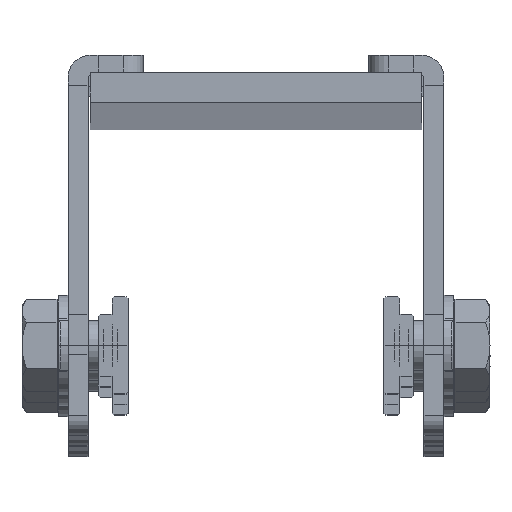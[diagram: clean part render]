
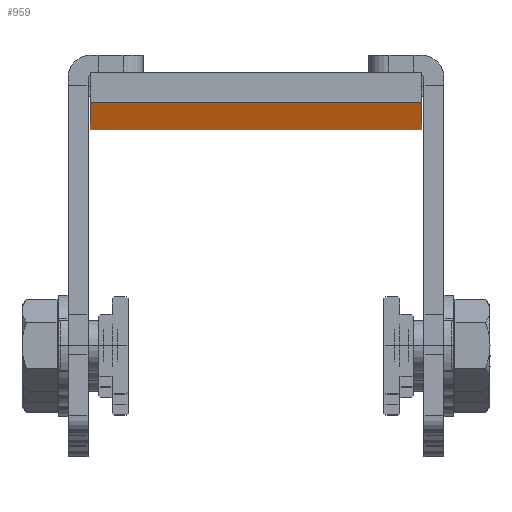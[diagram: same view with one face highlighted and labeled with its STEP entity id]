
A CAD part, top view. The second image highlights one B-rep face of the part: STEP entity #959.
In plain terms, the highlighted planar face has unit normal (0, -1, 0).
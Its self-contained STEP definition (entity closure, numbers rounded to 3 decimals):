
#86=DIRECTION('',(0.,0.,1.));
#87=VECTOR('',#86,1568.);
#88=CARTESIAN_POINT('',(-16.6,0.,-784.));
#89=LINE('',#88,#87);
#93=DIRECTION('',(1.,0.,0.));
#94=VECTOR('',#93,33.2);
#95=CARTESIAN_POINT('',(-16.6,0.,784.));
#96=LINE('',#95,#94);
#100=DIRECTION('',(0.,0.,-1.));
#101=VECTOR('',#100,1568.);
#102=CARTESIAN_POINT('',(16.6,0.,784.));
#103=LINE('',#102,#101);
#107=DIRECTION('',(-1.,0.,0.));
#108=VECTOR('',#107,33.2);
#109=CARTESIAN_POINT('',(16.6,0.,-784.));
#110=LINE('',#109,#108);
#808=CARTESIAN_POINT('',(-16.6,0.,-784.));
#809=CARTESIAN_POINT('',(-16.6,0.,784.));
#810=VERTEX_POINT('',#808);
#811=VERTEX_POINT('',#809);
#812=CARTESIAN_POINT('',(16.6,0.,784.));
#813=VERTEX_POINT('',#812);
#814=CARTESIAN_POINT('',(16.6,0.,-784.));
#815=VERTEX_POINT('',#814);
#944=CARTESIAN_POINT('',(0.,0.,0.));
#945=DIRECTION('',(0.,1.,0.));
#946=DIRECTION('',(1.,0.,0.));
#947=AXIS2_PLACEMENT_3D('',#944,#945,#946);
#948=PLANE('',#947);
#950=ORIENTED_EDGE('',*,*,#949,.T.);
#952=ORIENTED_EDGE('',*,*,#951,.T.);
#954=ORIENTED_EDGE('',*,*,#953,.T.);
#956=ORIENTED_EDGE('',*,*,#955,.T.);
#957=EDGE_LOOP('',(#950,#952,#954,#956));
#958=FACE_OUTER_BOUND('',#957,.F.);
#959=ADVANCED_FACE('',(#958),#948,.F.);
#949=EDGE_CURVE('',#810,#811,#89,.T.);
#951=EDGE_CURVE('',#811,#813,#96,.T.);
#953=EDGE_CURVE('',#813,#815,#103,.T.);
#955=EDGE_CURVE('',#815,#810,#110,.T.);
